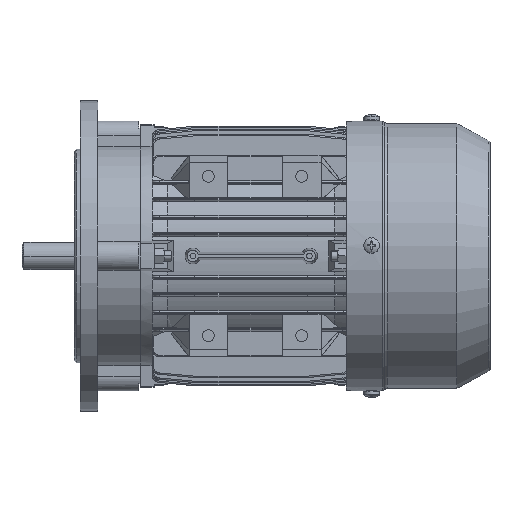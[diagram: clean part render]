
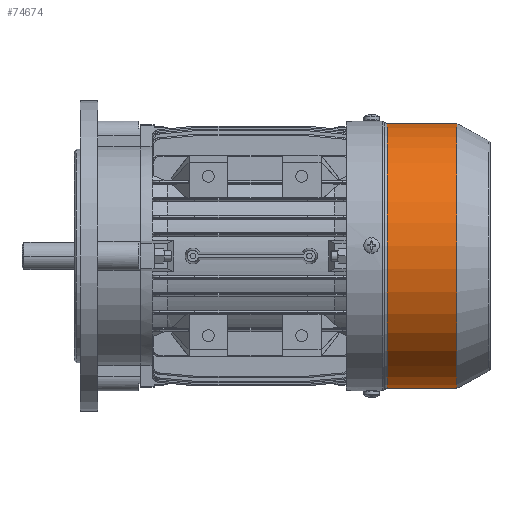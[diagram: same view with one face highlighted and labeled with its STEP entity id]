
A CAD part, front view. The second image highlights one B-rep face of the part: STEP entity #74674.
In plain terms, the highlighted cylindrical face has radius 68.3 mm (diameter 136.6 mm), a partial arc.
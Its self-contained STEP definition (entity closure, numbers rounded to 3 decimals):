
#3819 = DIRECTION ( 'NONE',  ( -1., 0., 0. ) ) ;
#4984 = CYLINDRICAL_SURFACE ( 'NONE', #6647, 68.3 ) ;
#6647 = AXIS2_PLACEMENT_3D ( 'NONE', #94836, #3819, #50743 ) ;
#12053 = AXIS2_PLACEMENT_3D ( 'NONE', #107863, #54384, #89063 ) ;
#12169 = DIRECTION ( 'NONE',  ( 0., 0.074, 0.997 ) ) ;
#17395 = CARTESIAN_POINT ( 'NONE',  ( 57.333, -1.992, 68.112 ) ) ;
#21994 = FACE_OUTER_BOUND ( 'NONE', #24216, .T. ) ;
#24216 = EDGE_LOOP ( 'NONE', ( #108327, #55303, #46397, #45311 ) ) ;
#27285 = VERTEX_POINT ( 'NONE', #96845 ) ;
#28294 = AXIS2_PLACEMENT_3D ( 'NONE', #31513, #85586, #12169 ) ;
#31513 = CARTESIAN_POINT ( 'NONE',  ( 114.333, -7.056, 0. ) ) ;
#35392 = DIRECTION ( 'NONE',  ( -1., 0., 0. ) ) ;
#43644 = LINE ( 'NONE', #53054, #115459 ) ;
#45311 = ORIENTED_EDGE ( 'NONE', *, *, #88849, .F. ) ;
#45691 = CARTESIAN_POINT ( 'NONE',  ( 78.325, -1.992, 68.112 ) ) ;
#45988 = CARTESIAN_POINT ( 'NONE',  ( 114.333, -12.121, -68.112 ) ) ;
#46397 = ORIENTED_EDGE ( 'NONE', *, *, #89862, .T. ) ;
#50743 = DIRECTION ( 'NONE',  ( 0., 0.074, 0.997 ) ) ;
#53054 = CARTESIAN_POINT ( 'NONE',  ( 57.333, -12.121, -68.112 ) ) ;
#54384 = DIRECTION ( 'NONE',  ( -1., 0., 0. ) ) ;
#55303 = ORIENTED_EDGE ( 'NONE', *, *, #67015, .T. ) ;
#64383 = EDGE_CURVE ( 'NONE', #97051, #100367, #43644, .T. ) ;
#65425 = CARTESIAN_POINT ( 'NONE',  ( 78.325, -12.121, -68.112 ) ) ;
#66496 = CIRCLE ( 'NONE', #12053, 68.3 ) ;
#67015 = EDGE_CURVE ( 'NONE', #97051, #27285, #78970, .T. ) ;
#70276 = LINE ( 'NONE', #17395, #79849 ) ;
#74674 = ADVANCED_FACE ( 'NONE', ( #21994 ), #4984, .T. ) ;
#78970 = CIRCLE ( 'NONE', #28294, 68.3 ) ;
#79849 = VECTOR ( 'NONE', #89081, 1000. ) ;
#85586 = DIRECTION ( 'NONE',  ( -1., 0., 0. ) ) ;
#88849 = EDGE_CURVE ( 'NONE', #100367, #105051, #66496, .T. ) ;
#89063 = DIRECTION ( 'NONE',  ( 0., 0.074, 0.997 ) ) ;
#89081 = DIRECTION ( 'NONE',  ( -1., 0., 0. ) ) ;
#89862 = EDGE_CURVE ( 'NONE', #27285, #105051, #70276, .T. ) ;
#94836 = CARTESIAN_POINT ( 'NONE',  ( 57.333, -7.056, 0. ) ) ;
#96845 = CARTESIAN_POINT ( 'NONE',  ( 114.333, -1.992, 68.112 ) ) ;
#97051 = VERTEX_POINT ( 'NONE', #45988 ) ;
#100367 = VERTEX_POINT ( 'NONE', #65425 ) ;
#105051 = VERTEX_POINT ( 'NONE', #45691 ) ;
#107863 = CARTESIAN_POINT ( 'NONE',  ( 78.325, -7.056, 0. ) ) ;
#108327 = ORIENTED_EDGE ( 'NONE', *, *, #64383, .F. ) ;
#115459 = VECTOR ( 'NONE', #35392, 1000. ) ;
